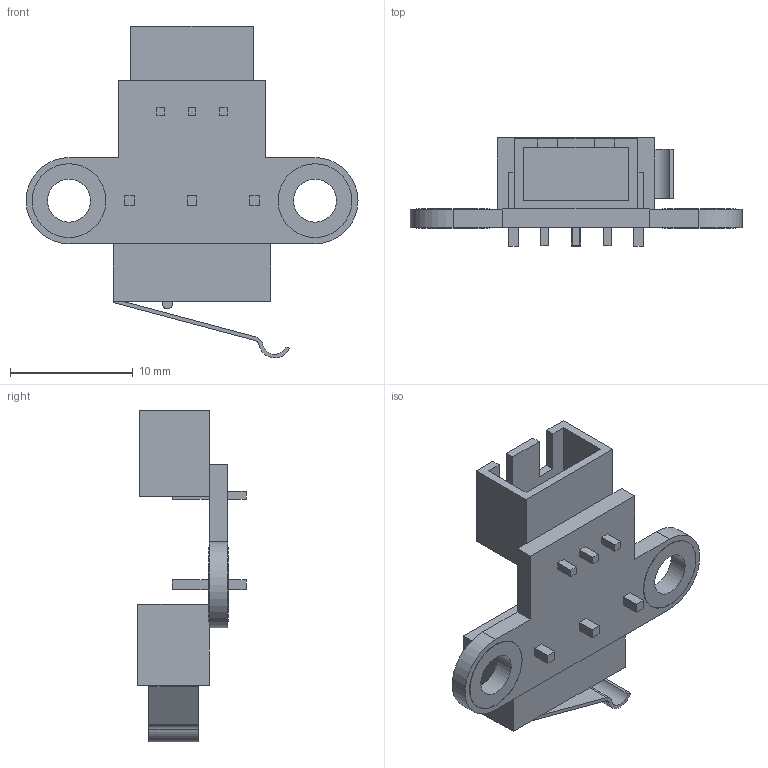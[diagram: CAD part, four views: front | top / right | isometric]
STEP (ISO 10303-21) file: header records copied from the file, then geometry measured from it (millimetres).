
FILE_DESCRIPTION(/* description */ ('STEP AP242 Edition 2','CAx-IF Rec.Pracs.---Representation and Presentation of Product Manufacturing Information (PMI)---4.0---2014-10-13','CAx-IF Rec.Pracs.---3D Tessellated Geometry---0.4---2014-09-14','2;1','CAx-IF Rec.Pracs.---User Defined Attributes---1.5---2016-08-15'),/* implementation_level */ '2;1');
FILE_NAME(/* name */ 'Micro Limit Switch',/* time_stamp */ '2025-11-29T19:51:01Z',/* author */ (''),/* organization */ (''),/* preprocessor_version */ 'ST-DEVELOPER v20',/* originating_system */ 'ONSHAPE BY PTC INC, 1.207',/* authorisation */ ' ');
FILE_SCHEMA (('AP242_MANAGED_MODEL_BASED_3D_ENGINEERING_MIM_LF { 1 0 10303 442 3 1 4 }'));
Length unit declared in the file: metre
Products named in the file (1): Limit Switch
Bounding box: 27 x 8.8 x 26.99 mm (x, y, z)
Volume: 991.9 mm3; surface area: 1968.6 mm2
Topology: 1 solids, 1 shells, 167 faces, 441 edges, 294 vertices
Faces by surface type: plane 150, cylinder 17
Full cylindrical faces by diameter (mm): 3.5 x2, 4.9 x2, 6 x4
Entity records: 5884 total; most frequent: CARTESIAN_POINT 887, ORIENTED_EDGE 858, DIRECTION 799, EDGE_CURVE 429, LINE 395, VECTOR 395, VERTEX_POINT 290, EDGE_LOOP 213
